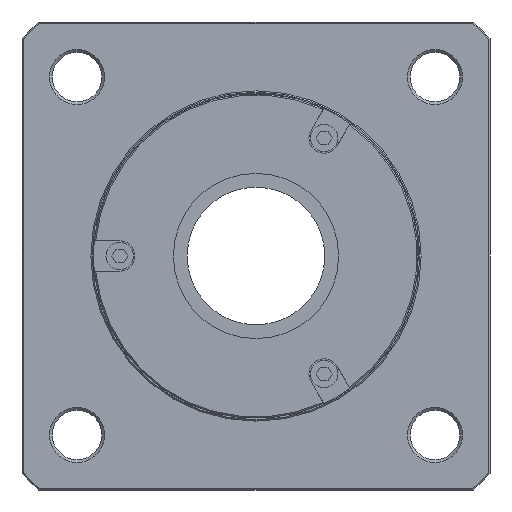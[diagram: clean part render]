
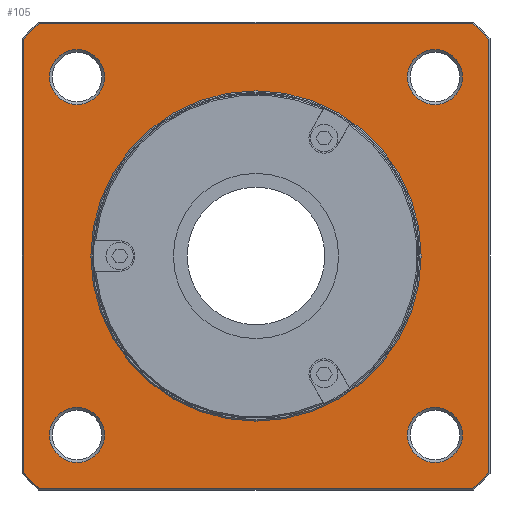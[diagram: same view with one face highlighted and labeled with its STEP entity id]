
A CAD part, left-side view. The second image highlights one B-rep face of the part: STEP entity #105.
In plain terms, the highlighted planar face has unit normal (-1, 0, 0).
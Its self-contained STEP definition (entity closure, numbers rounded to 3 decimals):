
#105=ADVANCED_FACE('',(#312,#313,#314,#315,#316,#317),#318,.T.);
#312=FACE_BOUND('',#728,.T.);
#313=FACE_BOUND('',#729,.T.);
#314=FACE_BOUND('',#730,.T.);
#315=FACE_BOUND('',#731,.T.);
#316=FACE_OUTER_BOUND('',#732,.T.);
#317=FACE_BOUND('',#733,.T.);
#318=PLANE('',#734);
#728=EDGE_LOOP('',(#1325));
#729=EDGE_LOOP('',(#1326));
#730=EDGE_LOOP('',(#1327));
#731=EDGE_LOOP('',(#1328));
#732=EDGE_LOOP('',(#1329,#1330,#1331,#1332,#1333,#1334,#1335,#1336));
#733=EDGE_LOOP('',(#1337));
#734=AXIS2_PLACEMENT_3D('',#1338,#1339,#1340);
#1325=ORIENTED_EDGE('',*,*,#2474,.T.);
#1326=ORIENTED_EDGE('',*,*,#2475,.T.);
#1327=ORIENTED_EDGE('',*,*,#2476,.T.);
#1328=ORIENTED_EDGE('',*,*,#2477,.T.);
#1329=ORIENTED_EDGE('',*,*,#2425,.T.);
#1330=ORIENTED_EDGE('',*,*,#2422,.T.);
#1331=ORIENTED_EDGE('',*,*,#2478,.T.);
#1332=ORIENTED_EDGE('',*,*,#2479,.T.);
#1333=ORIENTED_EDGE('',*,*,#2480,.T.);
#1334=ORIENTED_EDGE('',*,*,#2481,.T.);
#1335=ORIENTED_EDGE('',*,*,#2431,.T.);
#1336=ORIENTED_EDGE('',*,*,#2428,.T.);
#1337=ORIENTED_EDGE('',*,*,#2482,.F.);
#1338=CARTESIAN_POINT('',(4.0,60.0,0.0));
#1339=DIRECTION('',(-1.0,0.0,0.0));
#1340=DIRECTION('',(0.0,0.0,1.0));
#2422=EDGE_CURVE('',#2865,#2870,#2872,.T.);
#2425=EDGE_CURVE('',#2873,#2865,#2877,.T.);
#2428=EDGE_CURVE('',#2878,#2873,#2882,.T.);
#2431=EDGE_CURVE('',#2883,#2878,#2887,.T.);
#2474=EDGE_CURVE('',#2960,#2960,#2961,.F.);
#2475=EDGE_CURVE('',#2962,#2962,#2963,.F.);
#2476=EDGE_CURVE('',#2964,#2964,#2965,.F.);
#2477=EDGE_CURVE('',#2966,#2966,#2967,.F.);
#2478=EDGE_CURVE('',#2870,#2968,#2969,.T.);
#2479=EDGE_CURVE('',#2968,#2970,#2971,.T.);
#2480=EDGE_CURVE('',#2970,#2972,#2973,.T.);
#2481=EDGE_CURVE('',#2972,#2883,#2974,.T.);
#2482=EDGE_CURVE('',#2975,#2975,#2976,.T.);
#2865=VERTEX_POINT('',#3598);
#2870=VERTEX_POINT('',#3607);
#2872=LINE('',#3612,#3613);
#2873=VERTEX_POINT('',#3614);
#2877=CIRCLE('',#3621,115.5);
#2878=VERTEX_POINT('',#3622);
#2882=LINE('',#3630,#3631);
#2883=VERTEX_POINT('',#3632);
#2887=CIRCLE('',#3639,115.5);
#2960=VERTEX_POINT('',#3883);
#2961=CIRCLE('',#3884,10.0);
#2962=VERTEX_POINT('',#3885);
#2963=CIRCLE('',#3886,10.0);
#2964=VERTEX_POINT('',#3887);
#2965=CIRCLE('',#3888,10.0);
#2966=VERTEX_POINT('',#3889);
#2967=CIRCLE('',#3890,10.0);
#2968=VERTEX_POINT('',#3891);
#2969=CIRCLE('',#3892,115.5);
#2970=VERTEX_POINT('',#3893);
#2971=LINE('',#3894,#3895);
#2972=VERTEX_POINT('',#3896);
#2973=CIRCLE('',#3897,115.5);
#2974=LINE('',#3898,#3899);
#2975=VERTEX_POINT('',#3900);
#2976=CIRCLE('',#3901,60.0);
#3598=CARTESIAN_POINT('',(4.0,78.74,-84.5));
#3607=CARTESIAN_POINT('',(4.0,-78.74,-84.5));
#3612=CARTESIAN_POINT('',(4.0,60.0,-84.5));
#3613=VECTOR('',#4632,1.0);
#3614=CARTESIAN_POINT('',(4.0,84.5,-78.74));
#3621=AXIS2_PLACEMENT_3D('',#4636,#4637,#4638);
#3622=CARTESIAN_POINT('',(4.0,84.5,78.74));
#3630=CARTESIAN_POINT('',(4.0,84.5,0.0));
#3631=VECTOR('',#4640,1.0);
#3632=CARTESIAN_POINT('',(4.0,78.74,84.5));
#3639=AXIS2_PLACEMENT_3D('',#4644,#4645,#4646);
#3883=CARTESIAN_POINT('',(4.0,65.0,75.0));
#3884=AXIS2_PLACEMENT_3D('',#4688,#4689,#4690);
#3885=CARTESIAN_POINT('',(4.0,-65.0,75.0));
#3886=AXIS2_PLACEMENT_3D('',#4691,#4692,#4693);
#3887=CARTESIAN_POINT('',(4.0,65.0,-55.0));
#3888=AXIS2_PLACEMENT_3D('',#4694,#4695,#4696);
#3889=CARTESIAN_POINT('',(4.0,-65.0,-55.0));
#3890=AXIS2_PLACEMENT_3D('',#4697,#4698,#4699);
#3891=CARTESIAN_POINT('',(4.0,-84.5,-78.74));
#3892=AXIS2_PLACEMENT_3D('',#4700,#4701,#4702);
#3893=CARTESIAN_POINT('',(4.0,-84.5,78.74));
#3894=CARTESIAN_POINT('',(4.0,-84.5,0.0));
#3895=VECTOR('',#4703,1.0);
#3896=CARTESIAN_POINT('',(4.0,-78.74,84.5));
#3897=AXIS2_PLACEMENT_3D('',#4704,#4705,#4706);
#3898=CARTESIAN_POINT('',(4.0,60.0,84.5));
#3899=VECTOR('',#4707,1.0);
#3900=CARTESIAN_POINT('',(4.0,0.0,60.0));
#3901=AXIS2_PLACEMENT_3D('',#4708,#4709,#4710);
#4632=DIRECTION('',(0.0,-1.0,0.0));
#4636=CARTESIAN_POINT('',(4.0,0.0,0.0));
#4637=DIRECTION('',(-1.0,0.0,0.0));
#4638=DIRECTION('',(0.0,0.0,1.0));
#4640=DIRECTION('',(0.0,0.0,-1.0));
#4644=CARTESIAN_POINT('',(4.0,0.0,0.0));
#4645=DIRECTION('',(-1.0,0.0,0.0));
#4646=DIRECTION('',(0.0,0.0,1.0));
#4688=CARTESIAN_POINT('',(4.0,65.0,65.0));
#4689=DIRECTION('',(-1.0,0.0,0.0));
#4690=DIRECTION('',(0.0,0.0,1.0));
#4691=CARTESIAN_POINT('',(4.0,-65.0,65.0));
#4692=DIRECTION('',(-1.0,0.0,0.0));
#4693=DIRECTION('',(0.0,0.0,1.0));
#4694=CARTESIAN_POINT('',(4.0,65.0,-65.0));
#4695=DIRECTION('',(-1.0,0.0,0.0));
#4696=DIRECTION('',(0.0,0.0,1.0));
#4697=CARTESIAN_POINT('',(4.0,-65.0,-65.0));
#4698=DIRECTION('',(-1.0,0.0,0.0));
#4699=DIRECTION('',(0.0,0.0,1.0));
#4700=CARTESIAN_POINT('',(4.0,0.0,0.0));
#4701=DIRECTION('',(-1.0,0.0,0.0));
#4702=DIRECTION('',(0.0,0.0,1.0));
#4703=DIRECTION('',(0.0,0.0,1.0));
#4704=CARTESIAN_POINT('',(4.0,0.0,0.0));
#4705=DIRECTION('',(-1.0,0.0,0.0));
#4706=DIRECTION('',(0.0,0.0,1.0));
#4707=DIRECTION('',(0.0,1.0,0.0));
#4708=CARTESIAN_POINT('',(4.0,0.0,0.0));
#4709=DIRECTION('',(-1.0,0.0,0.0));
#4710=DIRECTION('',(0.0,0.0,1.0));
